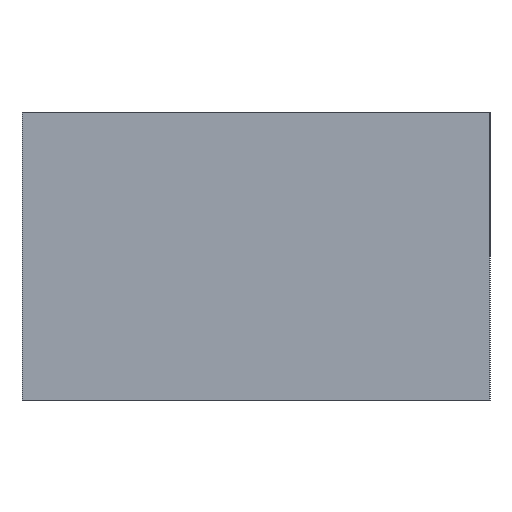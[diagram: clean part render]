
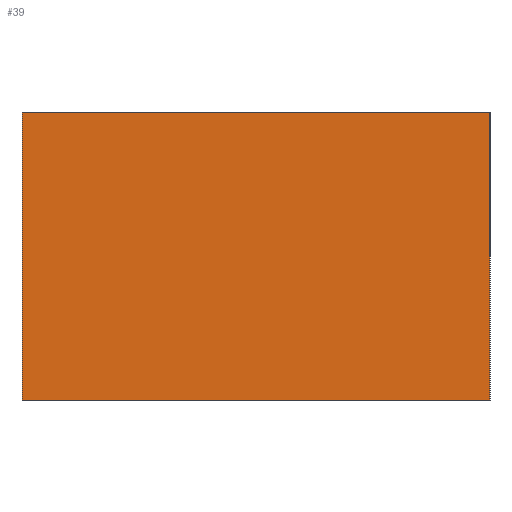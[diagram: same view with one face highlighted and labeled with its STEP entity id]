
A CAD part, left-side view. The second image highlights one B-rep face of the part: STEP entity #39.
In plain terms, the highlighted planar face has unit normal (-1, 0, 0).
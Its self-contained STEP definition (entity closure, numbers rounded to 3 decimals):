
#39 = ADVANCED_FACE('',(#40),#54,.F.);
#40 = FACE_BOUND('',#41,.F.);
#41 = EDGE_LOOP('',(#42,#77,#105,#133));
#42 = ORIENTED_EDGE('',*,*,#43,.F.);
#43 = EDGE_CURVE('',#44,#46,#48,.T.);
#44 = VERTEX_POINT('',#45);
#45 = CARTESIAN_POINT('',(-0.5,-13.,-8.));
#46 = VERTEX_POINT('',#47);
#47 = CARTESIAN_POINT('',(-0.5,-13.,8.));
#48 = SURFACE_CURVE('',#49,(#53,#65),.PCURVE_S1.);
#49 = LINE('',#50,#51);
#50 = CARTESIAN_POINT('',(-0.5,-13.,-8.));
#51 = VECTOR('',#52,1.);
#52 = DIRECTION('',(0.,0.,1.));
#53 = PCURVE('',#54,#59);
#54 = PLANE('',#55);
#55 = AXIS2_PLACEMENT_3D('',#56,#57,#58);
#56 = CARTESIAN_POINT('',(-0.5,-13.,-8.));
#57 = DIRECTION('',(1.,0.,-0.));
#58 = DIRECTION('',(0.,0.,1.));
#59 = DEFINITIONAL_REPRESENTATION('',(#60),#64);
#60 = LINE('',#61,#62);
#61 = CARTESIAN_POINT('',(0.,0.));
#62 = VECTOR('',#63,1.);
#63 = DIRECTION('',(1.,0.));
#64 = ( GEOMETRIC_REPRESENTATION_CONTEXT(2) 
PARAMETRIC_REPRESENTATION_CONTEXT() REPRESENTATION_CONTEXT('2D SPACE',''
  ) );
#65 = PCURVE('',#66,#71);
#66 = PLANE('',#67);
#67 = AXIS2_PLACEMENT_3D('',#68,#69,#70);
#68 = CARTESIAN_POINT('',(-0.5,-13.,-8.));
#69 = DIRECTION('',(-0.,1.,0.));
#70 = DIRECTION('',(0.,0.,1.));
#71 = DEFINITIONAL_REPRESENTATION('',(#72),#76);
#72 = LINE('',#73,#74);
#73 = CARTESIAN_POINT('',(0.,0.));
#74 = VECTOR('',#75,1.);
#75 = DIRECTION('',(1.,0.));
#76 = ( GEOMETRIC_REPRESENTATION_CONTEXT(2) 
PARAMETRIC_REPRESENTATION_CONTEXT() REPRESENTATION_CONTEXT('2D SPACE',''
  ) );
#77 = ORIENTED_EDGE('',*,*,#78,.T.);
#78 = EDGE_CURVE('',#44,#79,#81,.T.);
#79 = VERTEX_POINT('',#80);
#80 = CARTESIAN_POINT('',(-0.5,13.,-8.));
#81 = SURFACE_CURVE('',#82,(#86,#93),.PCURVE_S1.);
#82 = LINE('',#83,#84);
#83 = CARTESIAN_POINT('',(-0.5,-13.,-8.));
#84 = VECTOR('',#85,1.);
#85 = DIRECTION('',(-0.,1.,0.));
#86 = PCURVE('',#54,#87);
#87 = DEFINITIONAL_REPRESENTATION('',(#88),#92);
#88 = LINE('',#89,#90);
#89 = CARTESIAN_POINT('',(0.,0.));
#90 = VECTOR('',#91,1.);
#91 = DIRECTION('',(0.,-1.));
#92 = ( GEOMETRIC_REPRESENTATION_CONTEXT(2) 
PARAMETRIC_REPRESENTATION_CONTEXT() REPRESENTATION_CONTEXT('2D SPACE',''
  ) );
#93 = PCURVE('',#94,#99);
#94 = PLANE('',#95);
#95 = AXIS2_PLACEMENT_3D('',#96,#97,#98);
#96 = CARTESIAN_POINT('',(-0.5,-13.,-8.));
#97 = DIRECTION('',(0.,0.,1.));
#98 = DIRECTION('',(1.,0.,-0.));
#99 = DEFINITIONAL_REPRESENTATION('',(#100),#104);
#100 = LINE('',#101,#102);
#101 = CARTESIAN_POINT('',(0.,0.));
#102 = VECTOR('',#103,1.);
#103 = DIRECTION('',(0.,1.));
#104 = ( GEOMETRIC_REPRESENTATION_CONTEXT(2) 
PARAMETRIC_REPRESENTATION_CONTEXT() REPRESENTATION_CONTEXT('2D SPACE',''
  ) );
#105 = ORIENTED_EDGE('',*,*,#106,.T.);
#106 = EDGE_CURVE('',#79,#107,#109,.T.);
#107 = VERTEX_POINT('',#108);
#108 = CARTESIAN_POINT('',(-0.5,13.,8.));
#109 = SURFACE_CURVE('',#110,(#114,#121),.PCURVE_S1.);
#110 = LINE('',#111,#112);
#111 = CARTESIAN_POINT('',(-0.5,13.,-8.));
#112 = VECTOR('',#113,1.);
#113 = DIRECTION('',(0.,0.,1.));
#114 = PCURVE('',#54,#115);
#115 = DEFINITIONAL_REPRESENTATION('',(#116),#120);
#116 = LINE('',#117,#118);
#117 = CARTESIAN_POINT('',(0.,-26.));
#118 = VECTOR('',#119,1.);
#119 = DIRECTION('',(1.,0.));
#120 = ( GEOMETRIC_REPRESENTATION_CONTEXT(2) 
PARAMETRIC_REPRESENTATION_CONTEXT() REPRESENTATION_CONTEXT('2D SPACE',''
  ) );
#121 = PCURVE('',#122,#127);
#122 = PLANE('',#123);
#123 = AXIS2_PLACEMENT_3D('',#124,#125,#126);
#124 = CARTESIAN_POINT('',(-0.5,13.,-8.));
#125 = DIRECTION('',(-0.,1.,0.));
#126 = DIRECTION('',(0.,0.,1.));
#127 = DEFINITIONAL_REPRESENTATION('',(#128),#132);
#128 = LINE('',#129,#130);
#129 = CARTESIAN_POINT('',(0.,0.));
#130 = VECTOR('',#131,1.);
#131 = DIRECTION('',(1.,0.));
#132 = ( GEOMETRIC_REPRESENTATION_CONTEXT(2) 
PARAMETRIC_REPRESENTATION_CONTEXT() REPRESENTATION_CONTEXT('2D SPACE',''
  ) );
#133 = ORIENTED_EDGE('',*,*,#134,.F.);
#134 = EDGE_CURVE('',#46,#107,#135,.T.);
#135 = SURFACE_CURVE('',#136,(#140,#147),.PCURVE_S1.);
#136 = LINE('',#137,#138);
#137 = CARTESIAN_POINT('',(-0.5,-13.,8.));
#138 = VECTOR('',#139,1.);
#139 = DIRECTION('',(-0.,1.,0.));
#140 = PCURVE('',#54,#141);
#141 = DEFINITIONAL_REPRESENTATION('',(#142),#146);
#142 = LINE('',#143,#144);
#143 = CARTESIAN_POINT('',(16.,0.));
#144 = VECTOR('',#145,1.);
#145 = DIRECTION('',(0.,-1.));
#146 = ( GEOMETRIC_REPRESENTATION_CONTEXT(2) 
PARAMETRIC_REPRESENTATION_CONTEXT() REPRESENTATION_CONTEXT('2D SPACE',''
  ) );
#147 = PCURVE('',#148,#153);
#148 = PLANE('',#149);
#149 = AXIS2_PLACEMENT_3D('',#150,#151,#152);
#150 = CARTESIAN_POINT('',(-0.5,-13.,8.));
#151 = DIRECTION('',(0.,0.,1.));
#152 = DIRECTION('',(1.,0.,-0.));
#153 = DEFINITIONAL_REPRESENTATION('',(#154),#158);
#154 = LINE('',#155,#156);
#155 = CARTESIAN_POINT('',(0.,0.));
#156 = VECTOR('',#157,1.);
#157 = DIRECTION('',(0.,1.));
#158 = ( GEOMETRIC_REPRESENTATION_CONTEXT(2) 
PARAMETRIC_REPRESENTATION_CONTEXT() REPRESENTATION_CONTEXT('2D SPACE',''
  ) );
